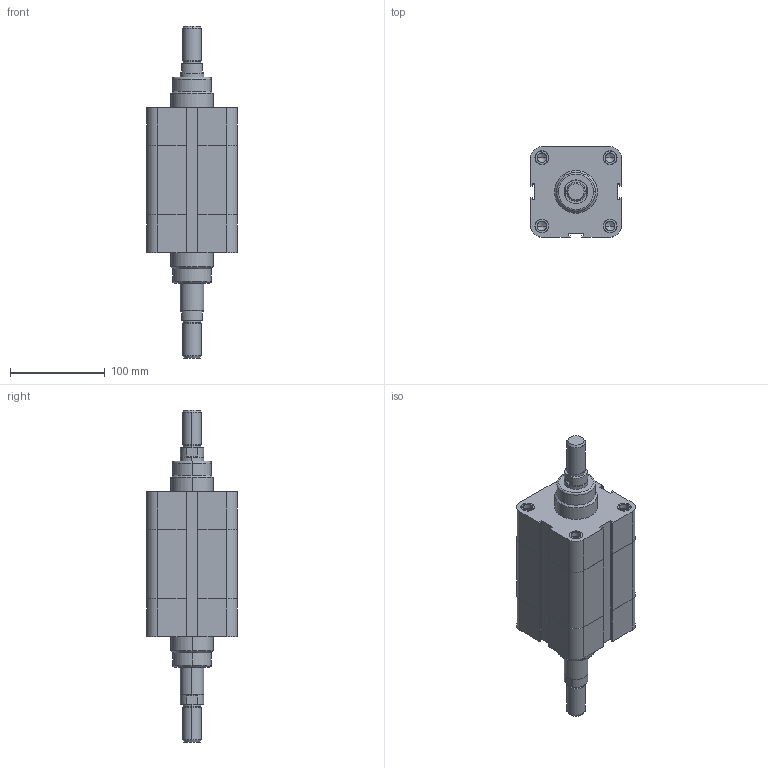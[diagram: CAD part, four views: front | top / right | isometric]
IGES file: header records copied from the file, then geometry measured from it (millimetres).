
Global section: file name: No Iges File Name specified; native system: AutoDesk Inventor R6.1; preprocessor: AutoDesk Inventor Iges Exporter R6.1; author: No Author specified; organization: No Organization specified; date: 20040107.171057; units: millimetre
Bounding box: 95.5 x 95.5 x 350 mm (x, y, z)
Volume: 1463481.8 mm3; surface area: 143091.1 mm2
Topology: 2 solids, 2 shells, 236 faces, 564 edges, 356 vertices
Faces by surface type: plane 80, bspline 62, cylinder 42, revolution 32, cone 16, torus 4
